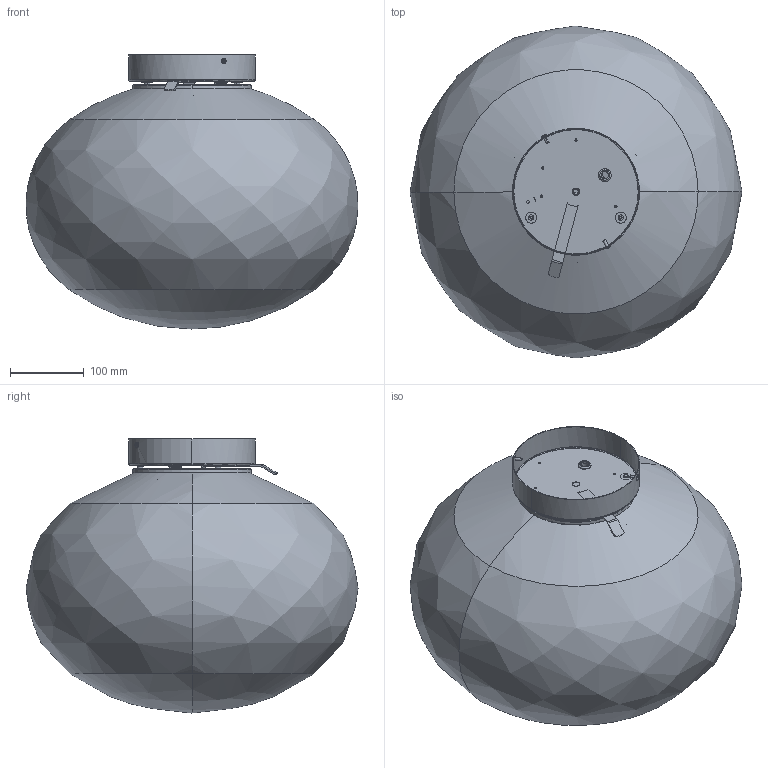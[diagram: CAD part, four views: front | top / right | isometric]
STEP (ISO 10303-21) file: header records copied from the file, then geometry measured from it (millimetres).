
FILE_DESCRIPTION(/* description */ (''),/* implementation_level */ '2;1');
FILE_NAME(/* name */ 'P065__.045.0402',/* time_stamp */ '2024-08-30T17:13:25+02:00',/* author */ (''),/* organization */ (''),/* preprocessor_version */ 'ST-DEVELOPER v16.5',/* originating_system */ '',/* authorisation */ '');
FILE_SCHEMA (('AUTOMOTIVE_DESIGN'));
Length unit declared in the file: millimetre
Products named in the file (1): Document
Bounding box: 449.88 x 450 x 371.55 mm (x, y, z)
Volume: 1607155.3 mm3; surface area: 1190299.2 mm2
Topology: 25 solids, 25 shells, 968 faces, 2283 edges, 1334 vertices
Faces by surface type: bspline 678, plane 290
Entity records: 62001 total; most frequent: CARTESIAN_POINT 48918, ORIENTED_EDGE 4440, EDGE_CURVE 2220, VERTEX_POINT 1334, EDGE_LOOP 1096, ADVANCED_FACE 968, FACE_OUTER_BOUND 968, B_SPLINE_CURVE_WITH_KNOTS 960
